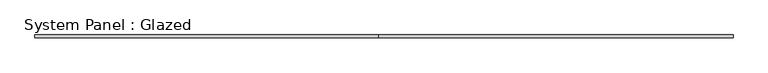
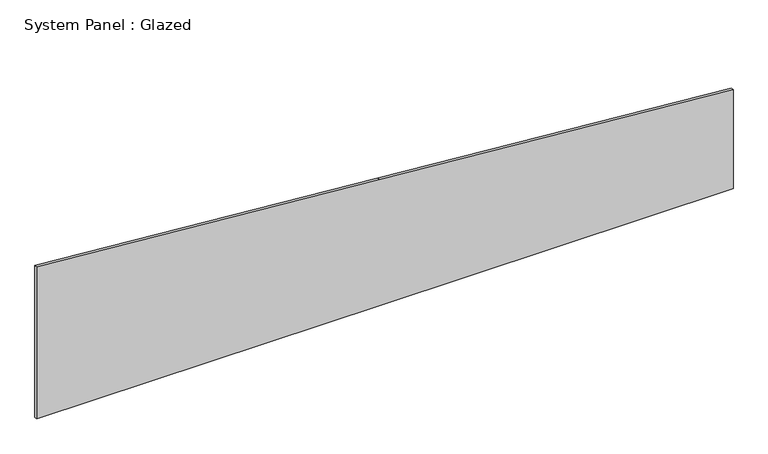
"""IFC4 building model written with IfcOpenShell, lengths in millimetres: plate geometry, System Panel : Glazed."""

import ifcopenshell
import ifcopenshell.guid

model = None  # the IFC model being written
_history = None  # IfcOwnerHistory: only IFC2X3 demands one
_inside = {}  # id of a spatial element -> (the spatial element, [elements in it])
_under = {}  # id of a project, library or spatial element -> (it, [spatial elements below it])
_declared = {}  # id of a project -> (the project, [libraries it declares])
_typed = {}  # id of a type object -> (the type object, [elements of that type])
_made_of = {}  # id of a material, layer set ... -> (it, [elements and type objects made of it])


def new_model(schema):
    """Start an empty IFC model of exactly this schema.

    Asked for "IFC4X3", IfcOpenShell would pick the latest addendum, in which some entities
    have other attributes; the version numbers below select the first issue.
    IFC2X3 requires an IfcOwnerHistory on every rooted entity: one is made here for all.
    """
    global model, _history
    if schema == "IFC4X3":
        model = ifcopenshell.file(schema_version=(4, 3, 0, 0))
    else:
        model = ifcopenshell.file(schema=schema)
    _inside.clear()
    _under.clear()
    _declared.clear()
    _typed.clear()
    _made_of.clear()
    _history = None
    if model.schema == "IFC2X3":
        org = make("IfcOrganization", Name="unknown")
        user = make(
            "IfcPersonAndOrganization",
            ThePerson=make("IfcPerson", FamilyName="unknown"),
            TheOrganization=org,
        )
        app = make(
            "IfcApplication",
            ApplicationDeveloper=org,
            Version="unknown",
            ApplicationFullName="unknown",
            ApplicationIdentifier="unknown",
        )
        _history = make(
            "IfcOwnerHistory",
            OwningUser=user,
            OwningApplication=app,
            ChangeAction="ADDED",
            CreationDate=0,
        )
    return model


def make(cls, **values):
    """One entity of the class cls with the attributes given. An attribute that is None is left unset."""
    return model.create_entity(
        cls, **{name: value for name, value in values.items() if value is not None}
    )


def rooted(cls, **values):
    """An entity with a GlobalId (a new one), such as an element, a storey or a relation."""
    return make(cls, GlobalId=ifcopenshell.guid.new(), OwnerHistory=_history, **values)


def si_unit(unit_type, name, prefix=None):
    """IfcSIUnit, for example si_unit("LENGTHUNIT", "METRE", prefix="MILLI")."""
    return make("IfcSIUnit", UnitType=unit_type, Prefix=prefix, Name=name)


def assignment(units):
    """IfcUnitAssignment: the units of a project."""
    return None if units is None else make("IfcUnitAssignment", Units=units)


def point(xyz):
    """IfcCartesianPoint."""
    return None if xyz is None else make("IfcCartesianPoint", Coordinates=xyz)


def direction(xyz):
    """IfcDirection."""
    return None if xyz is None else make("IfcDirection", DirectionRatios=xyz)


def frame(location, z_axis=None, x_axis=None):
    """IfcAxis2Placement3D, a coordinate frame: its origin and axes. An axis left out is left unset."""
    return make(
        "IfcAxis2Placement3D",
        Location=point(location),
        Axis=direction(z_axis),
        RefDirection=direction(x_axis),
    )


def origin():
    """The frame at (0, 0, 0) with its axes left unset."""
    return frame((0.0, 0.0, 0.0))


def place(relative_to, where):
    """IfcLocalPlacement: puts the frame where relative to a parent placement (None: the world)."""
    return make(
        "IfcLocalPlacement", PlacementRelTo=relative_to, RelativePlacement=where
    )


def context(
    kind, dimensions, precision=None, world=None, true_north=None, identifier=None
):
    """IfcGeometricRepresentationContext, for example the 3D "Model" context."""
    return make(
        "IfcGeometricRepresentationContext",
        ContextIdentifier=identifier,
        ContextType=kind,
        CoordinateSpaceDimension=dimensions,
        Precision=precision,
        WorldCoordinateSystem=world,
        TrueNorth=true_north,
    )


def project(units=None, contexts=None):
    """IfcProject with its units and contexts."""
    return rooted(
        "IfcProject",
        Name="project",
        RepresentationContexts=contexts,
        UnitsInContext=assignment(units),
    )


def spatial(cls, under=None, at=None, **own):
    """A site, building, storey or space (cls), placed at a placement, below another one or the project."""
    s = rooted(cls, ObjectPlacement=at, **own)
    if under is not None:
        _under.setdefault(under.id(), (under, []))[1].append(s)
    return s


def polyline(points):
    """IfcPolyline through the points."""
    return make("IfcPolyline", Points=[point(p) for p in points])


def outline(outer, holes=None, kind="AREA"):
    """IfcArbitraryClosedProfileDef: a profile drawn as a closed curve; with holes, ...WithVoids."""
    if holes is None:
        return make("IfcArbitraryClosedProfileDef", ProfileType=kind, OuterCurve=outer)
    return make(
        "IfcArbitraryProfileDefWithVoids",
        ProfileType=kind,
        OuterCurve=outer,
        InnerCurves=holes,
    )


def extrude(swept, where, along, depth):
    """IfcExtrudedAreaSolid: the profile swept, set in the frame where, extruded along a direction by depth."""
    return make(
        "IfcExtrudedAreaSolid",
        SweptArea=swept,
        Position=where,
        ExtrudedDirection=direction(along),
        Depth=depth,
    )


def shape(context_of_items, identifier, shape_type, items):
    """IfcShapeRepresentation: the items that make up one representation, for example the "Body"."""
    return make(
        "IfcShapeRepresentation",
        ContextOfItems=context_of_items,
        RepresentationIdentifier=identifier,
        RepresentationType=shape_type,
        Items=items,
    )


def source(mapping_origin, context_of_items, identifier, shape_type, items):
    """IfcRepresentationMap: a shape defined once, which mapped items show again and again."""
    return make(
        "IfcRepresentationMap",
        MappingOrigin=mapping_origin,
        MappedRepresentation=shape(context_of_items, identifier, shape_type, items),
    )


def transform(
    local_origin,
    x_axis=None,
    y_axis=None,
    z_axis=None,
    scale=None,
    scale2=None,
    scale3=None,
    uniform=True,
):
    """IfcCartesianTransformationOperator3D, or its non-uniform kind. x_axis, y_axis, z_axis: its Axis1, 2, 3."""
    if uniform:
        return make(
            "IfcCartesianTransformationOperator3D",
            Axis1=direction(x_axis),
            Axis2=direction(y_axis),
            LocalOrigin=point(local_origin),
            Scale=scale,
            Axis3=direction(z_axis),
        )
    return make(
        "IfcCartesianTransformationOperator3DnonUniform",
        Axis1=direction(x_axis),
        Axis2=direction(y_axis),
        LocalOrigin=point(local_origin),
        Scale=scale,
        Axis3=direction(z_axis),
        Scale2=scale2,
        Scale3=scale3,
    )


def mapped(mapping_source, mapping_target):
    """IfcMappedItem: shows the shape of a source again, moved by a transform."""
    return make(
        "IfcMappedItem", MappingSource=mapping_source, MappingTarget=mapping_target
    )


def made_of(thing, what):
    """Note that an element or type object is made of a material, layer set ...; save() writes the relation."""
    if what is not None:
        _made_of.setdefault(what.id(), (what, []))[1].append(thing)
    return thing


def element(
    cls,
    number,
    at=None,
    inside=None,
    cuts=None,
    type_object=None,
    material=None,
    context=None,
    identifier="Body",
    shape_type=None,
    held_by="IfcProductDefinitionShape",
    body=None,
    shapes=None,
    **own,
):
    """One element of the class cls, such as IfcWall. Its Tag is "e" and its number.

    at: its placement. inside: the storey or other place that contains it. cuts: it is an
    opening in that element (IfcRelVoidsElement). A single representation is given by context,
    identifier, shape_type and body (its items); several are given by shapes. held_by: the class
    of the entity that holds the representations. save() writes the other relations.
    """
    e = rooted(cls, Tag="e%d" % number, ObjectPlacement=at, **own)
    if body is not None:
        shapes = [shape(context, identifier, shape_type, body)]
    if shapes is not None:
        e.Representation = make(held_by, Representations=shapes)
    if inside is not None:
        _inside.setdefault(inside.id(), (inside, []))[1].append(e)
    if cuts is not None:
        rooted(
            "IfcRelVoidsElement", RelatingBuildingElement=cuts, RelatedOpeningElement=e
        )
    if type_object is not None:
        _typed.setdefault(type_object.id(), (type_object, []))[1].append(e)
    return made_of(e, material)


def aggregate(whole, parts):
    """IfcRelAggregates: a whole, such as a stair, and the parts it consists of."""
    return rooted("IfcRelAggregates", RelatingObject=whole, RelatedObjects=parts)


def save(model, path):
    """Write the relations noted so far, then the file.

    IfcRelAggregates (storeys below a building ...), IfcRelContainedInSpatialStructure (elements
    in a storey), IfcRelDefinesByType, IfcRelAssociatesMaterial and IfcRelDeclares: one each for
    every whole, place, type object, material and project.
    """
    for whole, parts in _under.values():
        aggregate(whole, parts)
    for where, things in _inside.values():
        rooted(
            "IfcRelContainedInSpatialStructure",
            RelatedElements=things,
            RelatingStructure=where,
        )
    for kind, things in _typed.values():
        rooted("IfcRelDefinesByType", RelatedObjects=things, RelatingType=kind)
    for what, things in _made_of.values():
        rooted("IfcRelAssociatesMaterial", RelatedObjects=things, RelatingMaterial=what)
    for by, libraries in _declared.values():
        rooted("IfcRelDeclares", RelatingContext=by, RelatedDefinitions=libraries)
    model.write(path)


def system_panel_glazed_638efc96(model_context):
    return source(origin(), model_context, "Body", "SweptSolid", [
        extrude(outline(polyline([(0.0, -1136.2405904), (0.0, -15.0), (0.0, 1136.2405904), (341.6106536, 1136.2405904), (434.6864134, -17.4125356), (524.9525159, -1136.2405904), (0.0, -1136.2405904)])), frame((0.0, -5.0, 0.0), z_axis=(0.0, 1.0, 0.0), x_axis=(0.0, 0.0, 1.0)), (0.0, 0.0, 1.0), 10.0),
    ])


if __name__ == "__main__":
    model = new_model("IFC4")
    model_context = context("Model", 3, world=origin())
    ifc_project = project(units=[si_unit("LENGTHUNIT", "METRE", prefix="MILLI")], contexts=[model_context])
    site = spatial("IfcSite", under=ifc_project)
    building = spatial("IfcBuilding", under=site)
    placement = place(None, origin())
    system_panel_glazed_shape = system_panel_glazed_638efc96(model_context)
    element("IfcPlate", 1, ObjectType="System Panel : Glazed", at=placement, inside=building, context=model_context, shape_type="MappedRepresentation", body=[
        mapped(system_panel_glazed_shape, transform((0.0, 0.0, 0.0), x_axis=(1.0, 0.0, 0.0), y_axis=(0.0, 1.0, 0.0), z_axis=(0.0, 0.0, 1.0))),
    ])
    save(model, "model.ifc")
